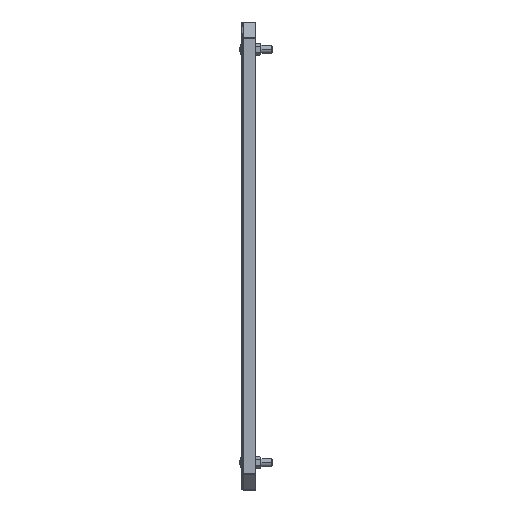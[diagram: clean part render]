
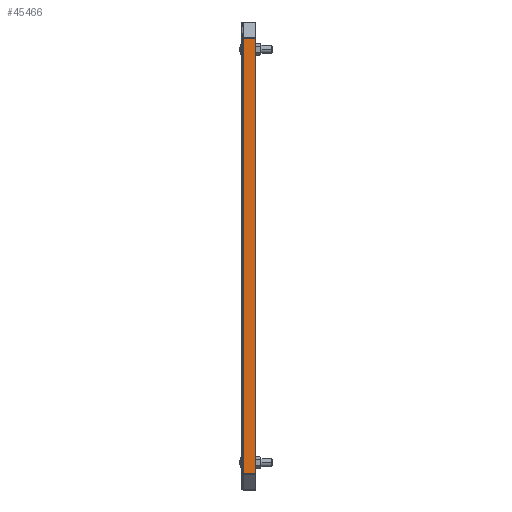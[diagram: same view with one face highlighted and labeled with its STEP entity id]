
A CAD part, left-side view. The second image highlights one B-rep face of the part: STEP entity #45466.
In plain terms, the highlighted planar face has unit normal (-1, 0, 0).
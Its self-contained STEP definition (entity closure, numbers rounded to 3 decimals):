
#447 = VERTEX_POINT ( 'NONE', #7679 ) ;
#450 = VERTEX_POINT ( 'NONE', #7681 ) ;
#453 = VERTEX_POINT ( 'NONE', #7684 ) ;
#457 = VERTEX_POINT ( 'NONE', #7686 ) ;
#7679 = CARTESIAN_POINT ( 'NONE',  ( -400., -2.4, -279.395 ) ) ;
#7681 = CARTESIAN_POINT ( 'NONE',  ( -400., -2.4, 279.395 ) ) ;
#7684 = CARTESIAN_POINT ( 'NONE',  ( -400., -18., -279.395 ) ) ;
#7686 = CARTESIAN_POINT ( 'NONE',  ( -400., -18., 279.395 ) ) ;
#16218 = VECTOR ( 'NONE', #17313, 1000. ) ;
#16222 = VECTOR ( 'NONE', #17325, 1000. ) ;
#16225 = VECTOR ( 'NONE', #17334, 1000. ) ;
#16227 = VECTOR ( 'NONE', #17337, 1000. ) ;
#17311 = LINE ( 'NONE', #17312, #16218 ) ;
#17312 = CARTESIAN_POINT ( 'NONE',  ( -400., -2.4, 280. ) ) ;
#17313 = DIRECTION ( 'NONE',  ( 0., 0., 1. ) ) ;
#17323 = LINE ( 'NONE', #17324, #16222 ) ;
#17324 = CARTESIAN_POINT ( 'NONE',  ( -400., -18., 280. ) ) ;
#17325 = DIRECTION ( 'NONE',  ( 0., 0., -1. ) ) ;
#17332 = LINE ( 'NONE', #17333, #16225 ) ;
#17333 = CARTESIAN_POINT ( 'NONE',  ( -400., -1.2, 279.395 ) ) ;
#17334 = DIRECTION ( 'NONE',  ( 0., -1., 0. ) ) ;
#17335 = LINE ( 'NONE', #17336, #16227 ) ;
#17336 = CARTESIAN_POINT ( 'NONE',  ( -400., -18., -279.395 ) ) ;
#17337 = DIRECTION ( 'NONE',  ( 0., -1., 0. ) ) ;
#24044 = FACE_OUTER_BOUND ( 'NONE', #41934, .T. ) ;
#24047 = AXIS2_PLACEMENT_3D ( 'NONE', #24752, #24753, #24754 ) ;
#24751 = PLANE ( 'NONE',  #24047 ) ;
#24752 = CARTESIAN_POINT ( 'NONE',  ( -400., -18., 280. ) ) ;
#24753 = DIRECTION ( 'NONE',  ( 1., 0., 0. ) ) ;
#24754 = DIRECTION ( 'NONE',  ( 0., 1., 0. ) ) ;
#41934 = EDGE_LOOP ( 'NONE', ( #43968, #43964, #43978, #43960 ) ) ;
#43242 = EDGE_CURVE ( 'NONE', #447, #450, #17311, .T. ) ;
#43246 = EDGE_CURVE ( 'NONE', #457, #453, #17323, .T. ) ;
#43249 = EDGE_CURVE ( 'NONE', #450, #457, #17332, .T. ) ;
#43250 = EDGE_CURVE ( 'NONE', #447, #453, #17335, .T. ) ;
#43960 = ORIENTED_EDGE ( 'NONE', *, *, #43249, .F. ) ;
#43964 = ORIENTED_EDGE ( 'NONE', *, *, #43250, .T. ) ;
#43968 = ORIENTED_EDGE ( 'NONE', *, *, #43242, .F. ) ;
#43978 = ORIENTED_EDGE ( 'NONE', *, *, #43246, .F. ) ;
#45466 = ADVANCED_FACE ( 'NONE', ( #24044 ), #24751, .F. ) ;
